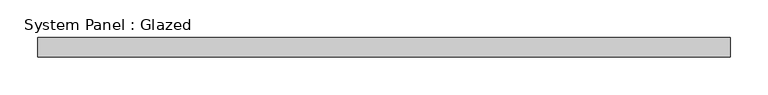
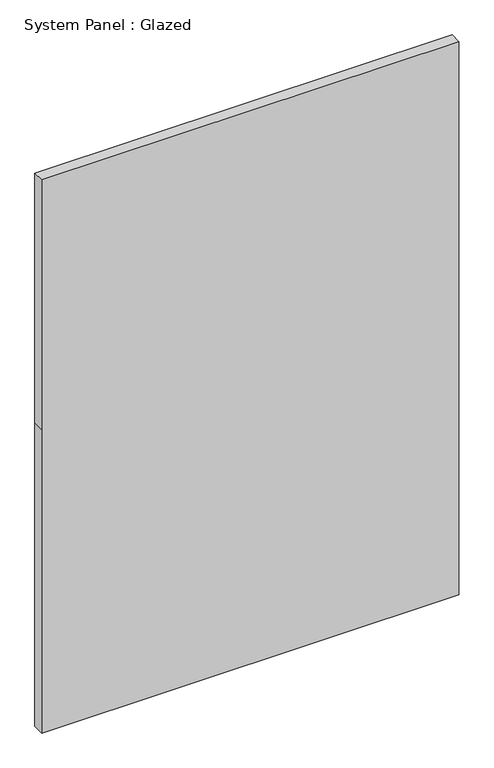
"""IFC4 building model written with IfcOpenShell, lengths in millimetres: plate geometry, System Panel : Glazed."""

from ifc_helpers import new_model, si_unit, frame, origin, place, context, project, spatial, polyline, outline, extrude, source, transform, mapped, element, save


def system_panel_glazed_e19d2fb8(model_context):
    return source(origin(), model_context, "Body", "SweptSolid", [
        extrude(outline(polyline([(0.0, -456.6708333), (0.0, 456.6708333), (702.2026365, 456.6708333), (1280.0526365, 456.6708333), (1280.0526365, -456.6708333), (702.2026365, -456.6708333), (0.0, -456.6708333)])), frame((0.0, -44.45, 0.0), z_axis=(0.0, 1.0, 0.0), x_axis=(0.0, 0.0, 1.0)), (0.0, 0.0, 1.0), 25.4),
    ])


if __name__ == "__main__":
    model = new_model("IFC4")
    model_context = context("Model", 3, world=origin())
    ifc_project = project(units=[si_unit("LENGTHUNIT", "METRE", prefix="MILLI")], contexts=[model_context])
    site = spatial("IfcSite", under=ifc_project)
    building = spatial("IfcBuilding", under=site)
    placement = place(None, origin())
    system_panel_glazed_shape = system_panel_glazed_e19d2fb8(model_context)
    element("IfcPlate", 1, ObjectType="System Panel : Glazed", at=placement, inside=building, context=model_context, shape_type="MappedRepresentation", body=[
        mapped(system_panel_glazed_shape, transform((0.0, 0.0, 0.0), x_axis=(1.0, 0.0, 0.0), y_axis=(0.0, 1.0, 0.0), z_axis=(0.0, 0.0, 1.0))),
    ])
    save(model, "model.ifc")
